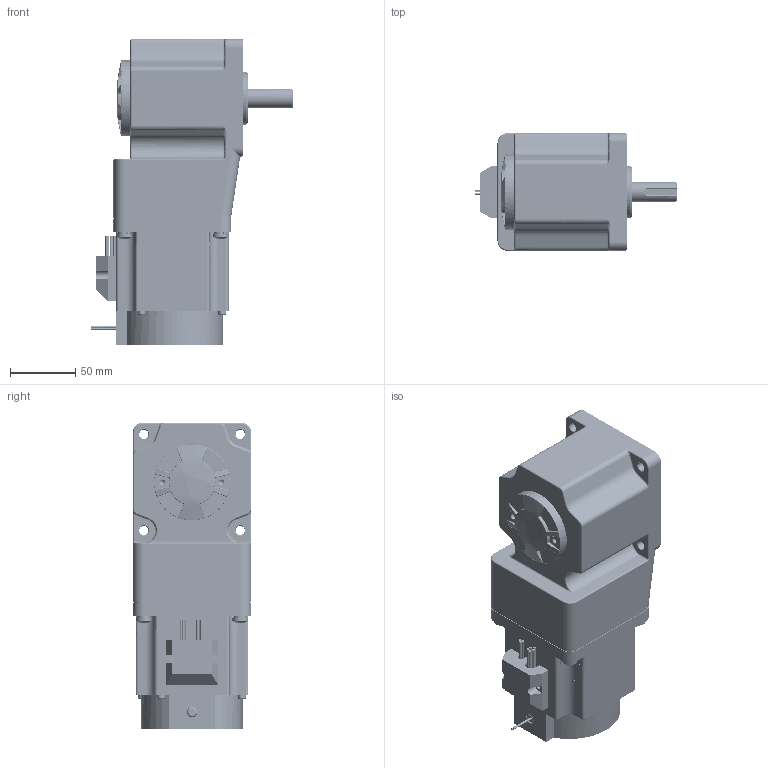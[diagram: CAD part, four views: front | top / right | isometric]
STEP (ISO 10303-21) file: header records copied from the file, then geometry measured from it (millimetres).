
FILE_DESCRIPTION(/* description */ (''),/* implementation_level */ '2;1');
FILE_NAME(/* name */ 'Z55BLD200-24GU-30S_5GU□RT.step',/* time_stamp */ '2026-07-14T10:27:47+08:00',/* author */ (''),/* organization */ (''),/* preprocessor_version */ 'ST-DEVELOPER v16',/* originating_system */ 'SIEMENS PLM Software NX 10.0',/* authorisation */ '');
FILE_SCHEMA (('AUTOMOTIVE_DESIGN { 1 0 10303 214 3 1 1 1 }'));
Products named in the file (1): Allen11
Bounding box: 154 x 90 x 234 mm (x, y, z)
Volume: 1043487.2 mm3; surface area: 316062.3 mm2
Topology: 42 solids, 43 shells, 4257 faces, 11274 edges, 7144 vertices
Faces by surface type: cylinder 2197, plane 929, bspline 713, cone 231, sphere 153, torus 34
Full cylindrical faces by diameter (mm): 2.002 x1
Entity records: 421616 total; most frequent: CARTESIAN_POINT 343533, ORIENTED_EDGE 22468, EDGE_CURVE 11234, B_SPLINE_CURVE_WITH_KNOTS 9254, VERTEX_POINT 7148, DIRECTION 7090, EDGE_LOOP 4496, ADVANCED_FACE 4257
